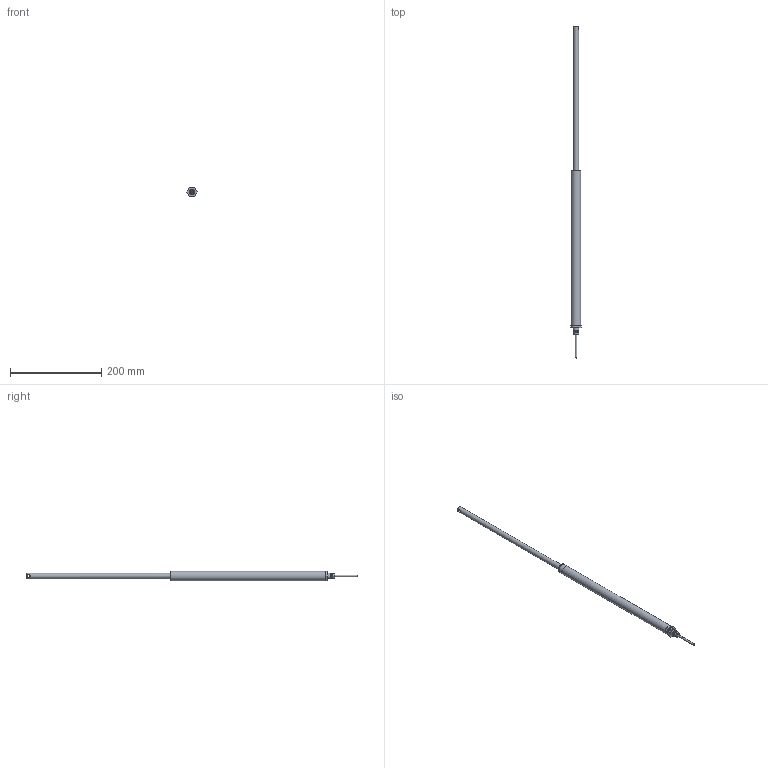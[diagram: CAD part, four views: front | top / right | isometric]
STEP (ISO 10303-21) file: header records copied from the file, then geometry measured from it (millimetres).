
FILE_DESCRIPTION(/* description */ ('Unknown'),/* implementation_level */ '2;1');
FILE_NAME(/* name */ '109.50163 Zylinder CI 1830_ausgefahren',/* time_stamp */ '2018-07-09T13:26:15+02:00',/* author */ ('Unknown'),/* organization */ ('Unknown'),/* preprocessor_version */ 'ST-DEVELOPER v16.7',/* originating_system */ 'DEX',/* authorisation */ $);
FILE_SCHEMA (('AUTOMOTIVE_DESIGN {1 0 10303 214 3 1 1}'));
Length unit declared in the file: millimetre
Products named in the file (9): 109.50163; 121.50003; 142.00021; 125.00021; 115.00008_oa_0; 125.00061; 120.00003; 122.00012; 113.00002_70mm
Assembly tree (8 placements, depth 2):
  109.50163
    121.50003
    142.00021
    125.00021
    115.00008_oa_0
    125.00061
    120.00003
    122.00012
    113.00002_70mm
Bounding box: 23.09 x 726 x 20 mm (x, y, z)
Volume: 64706.4 mm3; surface area: 59476.8 mm2
Topology: 7 solids, 7 shells, 91 faces, 183 edges, 117 vertices
Faces by surface type: plane 37, cylinder 27, cone 22, torus 4, sphere 1
Full cylindrical faces by diameter (mm): 2.2 x1, 3.5 x1, 4 x1, 4.1 x1, 4.2 x1, 6 x1, 6.917 x2, 7.763 x2, 8 x3, 8.1 x3, 12 x2, 12.5 x1, 13 x2, 14.4 x1, 17.9 x2, 18 x2, 20 x1
Entity records: 2690 total; most frequent: CARTESIAN_POINT 403, DIRECTION 384, ORIENTED_EDGE 248, AXIS2_PLACEMENT_3D 174, FACE_BOUND 163, EDGE_LOOP 162, EDGE_CURVE 124, VERTEX_POINT 107
